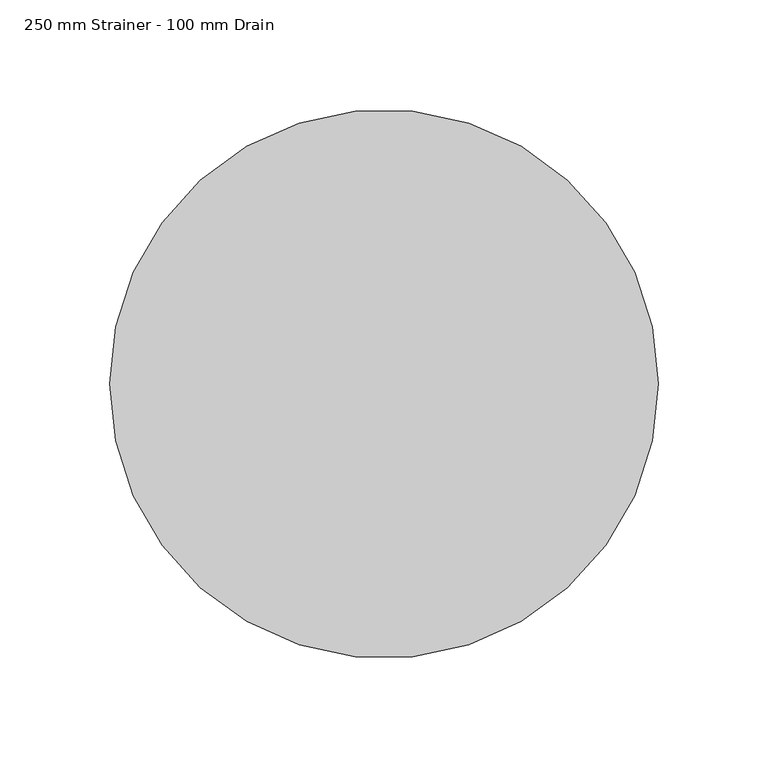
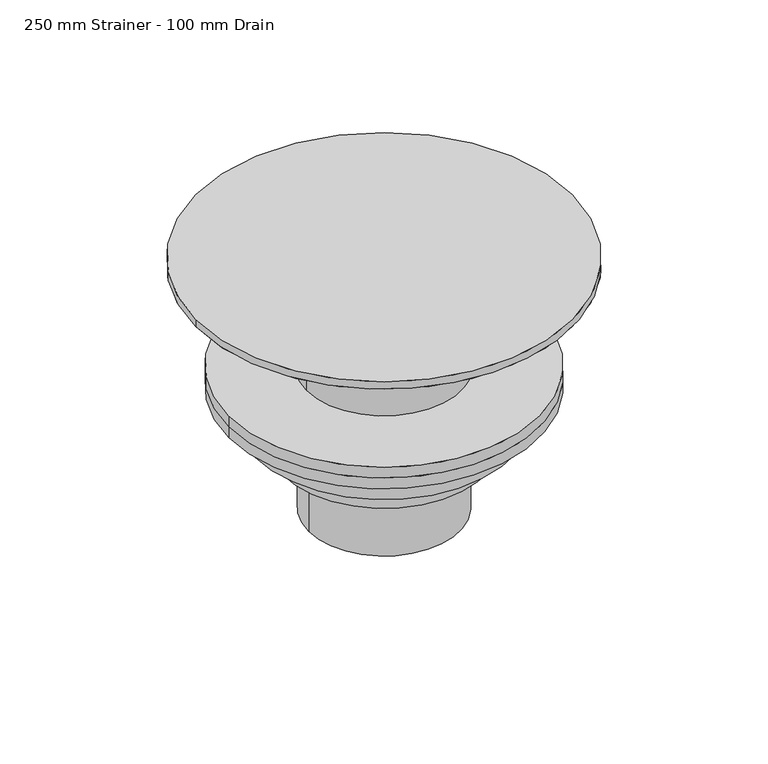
"""IFC4 building model written with IfcOpenShell, lengths in millimetres: flow terminal geometry, Sluk : 250 mm Strainer - 100 mm Drain."""

import ifcopenshell
import ifcopenshell.guid

model = None  # the IFC model being written
_history = None  # IfcOwnerHistory: only IFC2X3 demands one
_inside = {}  # id of a spatial element -> (the spatial element, [elements in it])
_under = {}  # id of a project, library or spatial element -> (it, [spatial elements below it])
_declared = {}  # id of a project -> (the project, [libraries it declares])
_typed = {}  # id of a type object -> (the type object, [elements of that type])
_made_of = {}  # id of a material, layer set ... -> (it, [elements and type objects made of it])


def new_model(schema):
    """Start an empty IFC model of exactly this schema.

    Asked for "IFC4X3", IfcOpenShell would pick the latest addendum, in which some entities
    have other attributes; the version numbers below select the first issue.
    IFC2X3 requires an IfcOwnerHistory on every rooted entity: one is made here for all.
    """
    global model, _history
    if schema == "IFC4X3":
        model = ifcopenshell.file(schema_version=(4, 3, 0, 0))
    else:
        model = ifcopenshell.file(schema=schema)
    _inside.clear()
    _under.clear()
    _declared.clear()
    _typed.clear()
    _made_of.clear()
    _history = None
    if model.schema == "IFC2X3":
        org = make("IfcOrganization", Name="unknown")
        user = make(
            "IfcPersonAndOrganization",
            ThePerson=make("IfcPerson", FamilyName="unknown"),
            TheOrganization=org,
        )
        app = make(
            "IfcApplication",
            ApplicationDeveloper=org,
            Version="unknown",
            ApplicationFullName="unknown",
            ApplicationIdentifier="unknown",
        )
        _history = make(
            "IfcOwnerHistory",
            OwningUser=user,
            OwningApplication=app,
            ChangeAction="ADDED",
            CreationDate=0,
        )
    return model


def make(cls, **values):
    """One entity of the class cls with the attributes given. An attribute that is None is left unset."""
    return model.create_entity(
        cls, **{name: value for name, value in values.items() if value is not None}
    )


def rooted(cls, **values):
    """An entity with a GlobalId (a new one), such as an element, a storey or a relation."""
    return make(cls, GlobalId=ifcopenshell.guid.new(), OwnerHistory=_history, **values)


def si_unit(unit_type, name, prefix=None):
    """IfcSIUnit, for example si_unit("LENGTHUNIT", "METRE", prefix="MILLI")."""
    return make("IfcSIUnit", UnitType=unit_type, Prefix=prefix, Name=name)


def assignment(units):
    """IfcUnitAssignment: the units of a project."""
    return None if units is None else make("IfcUnitAssignment", Units=units)


def point(xyz):
    """IfcCartesianPoint."""
    return None if xyz is None else make("IfcCartesianPoint", Coordinates=xyz)


def direction(xyz):
    """IfcDirection."""
    return None if xyz is None else make("IfcDirection", DirectionRatios=xyz)


def frame(location, z_axis=None, x_axis=None):
    """IfcAxis2Placement3D, a coordinate frame: its origin and axes. An axis left out is left unset."""
    return make(
        "IfcAxis2Placement3D",
        Location=point(location),
        Axis=direction(z_axis),
        RefDirection=direction(x_axis),
    )


def frame_2d(location, x_axis=None):
    """IfcAxis2Placement2D, a coordinate frame in the plane: its origin and x axis."""
    return make(
        "IfcAxis2Placement2D", Location=point(location), RefDirection=direction(x_axis)
    )


def origin():
    """The frame at (0, 0, 0) with its axes left unset."""
    return frame((0.0, 0.0, 0.0))


def origin_with_axes():
    """The frame at (0, 0, 0) with the z axis (0, 0, 1) and the x axis (1, 0, 0) written out."""
    return frame((0.0, 0.0, 0.0), z_axis=(0.0, 0.0, 1.0), x_axis=(1.0, 0.0, 0.0))


def origin_2d():
    """The frame at (0, 0) in the plane with its x axis left unset."""
    return frame_2d((0.0, 0.0))


def place(relative_to, where):
    """IfcLocalPlacement: puts the frame where relative to a parent placement (None: the world)."""
    return make(
        "IfcLocalPlacement", PlacementRelTo=relative_to, RelativePlacement=where
    )


def context(
    kind, dimensions, precision=None, world=None, true_north=None, identifier=None
):
    """IfcGeometricRepresentationContext, for example the 3D "Model" context."""
    return make(
        "IfcGeometricRepresentationContext",
        ContextIdentifier=identifier,
        ContextType=kind,
        CoordinateSpaceDimension=dimensions,
        Precision=precision,
        WorldCoordinateSystem=world,
        TrueNorth=true_north,
    )


def project(units=None, contexts=None):
    """IfcProject with its units and contexts."""
    return rooted(
        "IfcProject",
        Name="project",
        RepresentationContexts=contexts,
        UnitsInContext=assignment(units),
    )


def spatial(cls, under=None, at=None, **own):
    """A site, building, storey or space (cls), placed at a placement, below another one or the project."""
    s = rooted(cls, ObjectPlacement=at, **own)
    if under is not None:
        _under.setdefault(under.id(), (under, []))[1].append(s)
    return s


def polyline(points):
    """IfcPolyline through the points."""
    return make("IfcPolyline", Points=[point(p) for p in points])


def circle_curve(where, radius):
    """IfcCircle in the frame where."""
    return make("IfcCircle", Position=where, Radius=radius)


def trimmed(basis, trim1, trim2, sense, master):
    """IfcTrimmedCurve: the piece of a basis curve between two trims."""
    return make(
        "IfcTrimmedCurve",
        BasisCurve=basis,
        Trim1=trim1,
        Trim2=trim2,
        SenseAgreement=sense,
        MasterRepresentation=master,
    )


def segment(curve, same_sense, transition):
    """IfcCompositeCurveSegment."""
    return make(
        "IfcCompositeCurveSegment",
        Transition=transition,
        SameSense=same_sense,
        ParentCurve=curve,
    )


def composite_curve(segments, self_intersect=None):
    """IfcCompositeCurve: segments joined end to end."""
    return make("IfcCompositeCurve", Segments=segments, SelfIntersect=self_intersect)


def outline(outer, holes=None, kind="AREA"):
    """IfcArbitraryClosedProfileDef: a profile drawn as a closed curve; with holes, ...WithVoids."""
    if holes is None:
        return make("IfcArbitraryClosedProfileDef", ProfileType=kind, OuterCurve=outer)
    return make(
        "IfcArbitraryProfileDefWithVoids",
        ProfileType=kind,
        OuterCurve=outer,
        InnerCurves=holes,
    )


def extrude(swept, where, along, depth):
    """IfcExtrudedAreaSolid: the profile swept, set in the frame where, extruded along a direction by depth."""
    return make(
        "IfcExtrudedAreaSolid",
        SweptArea=swept,
        Position=where,
        ExtrudedDirection=direction(along),
        Depth=depth,
    )


def shape(context_of_items, identifier, shape_type, items):
    """IfcShapeRepresentation: the items that make up one representation, for example the "Body"."""
    return make(
        "IfcShapeRepresentation",
        ContextOfItems=context_of_items,
        RepresentationIdentifier=identifier,
        RepresentationType=shape_type,
        Items=items,
    )


def source(mapping_origin, context_of_items, identifier, shape_type, items):
    """IfcRepresentationMap: a shape defined once, which mapped items show again and again."""
    return make(
        "IfcRepresentationMap",
        MappingOrigin=mapping_origin,
        MappedRepresentation=shape(context_of_items, identifier, shape_type, items),
    )


def transform(
    local_origin,
    x_axis=None,
    y_axis=None,
    z_axis=None,
    scale=None,
    scale2=None,
    scale3=None,
    uniform=True,
):
    """IfcCartesianTransformationOperator3D, or its non-uniform kind. x_axis, y_axis, z_axis: its Axis1, 2, 3."""
    if uniform:
        return make(
            "IfcCartesianTransformationOperator3D",
            Axis1=direction(x_axis),
            Axis2=direction(y_axis),
            LocalOrigin=point(local_origin),
            Scale=scale,
            Axis3=direction(z_axis),
        )
    return make(
        "IfcCartesianTransformationOperator3DnonUniform",
        Axis1=direction(x_axis),
        Axis2=direction(y_axis),
        LocalOrigin=point(local_origin),
        Scale=scale,
        Axis3=direction(z_axis),
        Scale2=scale2,
        Scale3=scale3,
    )


def mapped(mapping_source, mapping_target):
    """IfcMappedItem: shows the shape of a source again, moved by a transform."""
    return make(
        "IfcMappedItem", MappingSource=mapping_source, MappingTarget=mapping_target
    )


def made_of(thing, what):
    """Note that an element or type object is made of a material, layer set ...; save() writes the relation."""
    if what is not None:
        _made_of.setdefault(what.id(), (what, []))[1].append(thing)
    return thing


def element(
    cls,
    number,
    at=None,
    inside=None,
    cuts=None,
    type_object=None,
    material=None,
    context=None,
    identifier="Body",
    shape_type=None,
    held_by="IfcProductDefinitionShape",
    body=None,
    shapes=None,
    **own,
):
    """One element of the class cls, such as IfcWall. Its Tag is "e" and its number.

    at: its placement. inside: the storey or other place that contains it. cuts: it is an
    opening in that element (IfcRelVoidsElement). A single representation is given by context,
    identifier, shape_type and body (its items); several are given by shapes. held_by: the class
    of the entity that holds the representations. save() writes the other relations.
    """
    e = rooted(cls, Tag="e%d" % number, ObjectPlacement=at, **own)
    if body is not None:
        shapes = [shape(context, identifier, shape_type, body)]
    if shapes is not None:
        e.Representation = make(held_by, Representations=shapes)
    if inside is not None:
        _inside.setdefault(inside.id(), (inside, []))[1].append(e)
    if cuts is not None:
        rooted(
            "IfcRelVoidsElement", RelatingBuildingElement=cuts, RelatedOpeningElement=e
        )
    if type_object is not None:
        _typed.setdefault(type_object.id(), (type_object, []))[1].append(e)
    return made_of(e, material)


def aggregate(whole, parts):
    """IfcRelAggregates: a whole, such as a stair, and the parts it consists of."""
    return rooted("IfcRelAggregates", RelatingObject=whole, RelatedObjects=parts)


def save(model, path):
    """Write the relations noted so far, then the file.

    IfcRelAggregates (storeys below a building ...), IfcRelContainedInSpatialStructure (elements
    in a storey), IfcRelDefinesByType, IfcRelAssociatesMaterial and IfcRelDeclares: one each for
    every whole, place, type object, material and project.
    """
    for whole, parts in _under.values():
        aggregate(whole, parts)
    for where, things in _inside.values():
        rooted(
            "IfcRelContainedInSpatialStructure",
            RelatedElements=things,
            RelatingStructure=where,
        )
    for kind, things in _typed.values():
        rooted("IfcRelDefinesByType", RelatedObjects=things, RelatingType=kind)
    for what, things in _made_of.values():
        rooted("IfcRelAssociatesMaterial", RelatedObjects=things, RelatingMaterial=what)
    for by, libraries in _declared.values():
        rooted("IfcRelDeclares", RelatingContext=by, RelatedDefinitions=libraries)
    model.write(path)


def plane_surface(at):
    """IfcPlane: the flat surface through the origin of the frame at, square to its z axis."""
    return make("IfcPlane", Position=at)


def revolved_surface(curve, axis_point, axis_direction):
    """IfcSurfaceOfRevolution: the curve turned about the line through axis_point along axis_direction."""
    return make(
        "IfcSurfaceOfRevolution",
        SweptCurve=make("IfcArbitraryOpenProfileDef", ProfileType="CURVE", Curve=curve),
        AxisPosition=make("IfcAxis1Placement", Location=point(axis_point), Axis=direction(axis_direction)),
    )


def advanced_brep(points, edges, surfaces, faces):
    """IfcAdvancedBrep: a solid bounded by faces that lie on surfaces and meet in shared edges.

    An edge is (start, end): straight between two places in points (the first is 0);
    or (start, end, curve); or (start, end, curve, False) where it runs against its curve.
    A face is (place in surfaces, loops), or (place, loops, False) where it looks against
    its surface's normal. A loop lists edges by number (the first is 1), with a minus sign
    where the edge is run from its end to its start. The first loop is the outer one.
    """
    corners = [point(p) for p in points]
    vertices = [make("IfcVertexPoint", VertexGeometry=c) for c in corners]
    made = []
    for start, end, *more in edges:
        made.append(
            make(
                "IfcEdgeCurve",
                EdgeStart=vertices[start],
                EdgeEnd=vertices[end],
                EdgeGeometry=more[0] if more else make("IfcPolyline", Points=[corners[start], corners[end]]),
                SameSense=more[1] if len(more) > 1 else True,
            )
        )
    hull = []
    for where, loops, *sense in faces:
        bounds = []
        for j, loop in enumerate(loops):
            ring = [make("IfcOrientedEdge", EdgeElement=made[abs(k) - 1], Orientation=k > 0) for k in loop]
            bounds.append(
                make(
                    "IfcFaceOuterBound" if j == 0 else "IfcFaceBound",
                    Bound=make("IfcEdgeLoop", EdgeList=ring),
                    Orientation=True,
                )
            )
        hull.append(make("IfcAdvancedFace", Bounds=bounds, FaceSurface=surfaces[where], SameSense=sense[0] if sense else True))
    return make("IfcAdvancedBrep", Outer=make("IfcClosedShell", CfsFaces=hull))


def flow_terminal_250_mm_strainer_100_mm_drain_c4bec031(model_context):
    return source(origin(), model_context, "Body", "SolidModel", [
        extrude(outline(composite_curve([segment(trimmed(circle_curve(origin_2d(), 125.0), [point((125.0, 0.0))], [point((-125.0, 0.0))], False, "CARTESIAN"), True, "CONTINUOUS"), segment(trimmed(circle_curve(origin_2d(), 125.0), [point((-125.0, 0.0))], [point((125.0, 0.0))], False, "CARTESIAN"), True, "CONTINUOUS")], self_intersect=False)), origin_with_axes(), (0.0, 0.0, 1.0), 5.08),
        advanced_brep(
        [(125.0, 0.0, 0.0), (-125.0, 0.0, 0.0), (0.0, 0.0, 0.0), (51.5, 0.0, -10.16), (-51.5, 0.0, -10.16), (0.0, 0.0, -10.16)],
        [
            (0, 1, circle_curve(frame((0.0, 0.0, 0.0), z_axis=(0.0, 0.0, 1.0), x_axis=(-1.0, 0.0, 0.0)), 125.0)),
            (1, 2),
            (2, 0),
            (1, 0, circle_curve(frame((0.0, 0.0, 0.0), z_axis=(0.0, 0.0, 1.0), x_axis=(-1.0, 0.0, 0.0)), 125.0)),
            (3, 4, circle_curve(frame((0.0, 0.0, -10.16), z_axis=(0.0, 0.0, 1.0), x_axis=(-1.0, 0.0, 0.0)), 51.5)),
            (4, 1),
            (0, 3),
            (4, 3, circle_curve(frame((0.0, 0.0, -10.16), z_axis=(0.0, 0.0, 1.0), x_axis=(-1.0, 0.0, 0.0)), 51.5)),
            (5, 4),
            (3, 5),
        ],
        [
            plane_surface(frame((0.0, 0.0, 0.0), z_axis=(0.0, 0.0, 1.0), x_axis=(-1.0, 0.0, 0.0))),
            revolved_surface(polyline([(-125.0, 0.0, 0.0), (-51.5, 0.0, -10.16)]), (0.0, 0.0, 49.53), (0.0, 0.0, -1.0)),
            plane_surface(frame((0.0, 0.0, -10.16), z_axis=(0.0, 0.0, -1.0), x_axis=(-1.0, 0.0, 0.0))),
        ],
        [
            (0, [[1, 2, 3]]),
            (0, [[4, -3, -2]]),
            (1, [[5, 6, -1, 7]]),
            (1, [[8, -7, -4, -6]]),
            (2, [[9, -5, 10]]),
            (2, [[-10, -8, -9]]),
        ],
    ),
        extrude(outline(composite_curve([segment(trimmed(circle_curve(origin_2d(), 51.5), [point((51.5, 0.0))], [point((-51.5, 0.0))], False, "CARTESIAN"), True, "CONTINUOUS"), segment(trimmed(circle_curve(origin_2d(), 51.5), [point((-51.5, 0.0))], [point((51.5, 0.0))], False, "CARTESIAN"), True, "CONTINUOUS")], self_intersect=False)), frame((0.0, 0.0, -70.3), z_axis=(0.0, 0.0, 1.0), x_axis=(1.0, 0.0, 0.0)), (0.0, 0.0, 1.0), 60.14),
        extrude(outline(composite_curve([segment(trimmed(circle_curve(origin_2d(), 103.0), [point((103.0, 0.0))], [point((-103.0, 0.0))], False, "CARTESIAN"), True, "CONTINUOUS"), segment(trimmed(circle_curve(origin_2d(), 103.0), [point((-103.0, 0.0))], [point((103.0, 0.0))], False, "CARTESIAN"), True, "CONTINUOUS")], self_intersect=False)), frame((0.0, 0.0, -77.92), z_axis=(0.0, 0.0, 1.0), x_axis=(1.0, 0.0, 0.0)), (0.0, 0.0, 1.0), 7.62),
        extrude(outline(composite_curve([segment(trimmed(circle_curve(origin_2d(), 103.0), [point((103.0, 0.0))], [point((-103.0, 0.0))], False, "CARTESIAN"), True, "CONTINUOUS"), segment(trimmed(circle_curve(origin_2d(), 103.0), [point((-103.0, 0.0))], [point((103.0, 0.0))], False, "CARTESIAN"), True, "CONTINUOUS")], self_intersect=False)), frame((0.0, 0.0, -85.54), z_axis=(0.0, 0.0, 1.0), x_axis=(1.0, 0.0, 0.0)), (0.0, 0.0, 1.0), 7.62),
        extrude(outline(composite_curve([segment(trimmed(circle_curve(origin_2d(), 85.3333333), [point((85.3333333, 0.0))], [point((-85.3333333, 0.0))], False, "CARTESIAN"), True, "CONTINUOUS"), segment(trimmed(circle_curve(origin_2d(), 85.3333333), [point((-85.3333333, 0.0))], [point((85.3333333, 0.0))], False, "CARTESIAN"), True, "CONTINUOUS")], self_intersect=False)), frame((0.0, 0.0, -105.52), z_axis=(0.0, 0.0, 1.0), x_axis=(1.0, 0.0, 0.0)), (0.0, 0.0, 1.0), 19.98),
        extrude(outline(composite_curve([segment(trimmed(circle_curve(origin_2d(), 67.6666667), [point((67.6666667, 0.0))], [point((-67.6666667, 0.0))], False, "CARTESIAN"), True, "CONTINUOUS"), segment(trimmed(circle_curve(origin_2d(), 67.6666667), [point((-67.6666667, 0.0))], [point((67.6666667, 0.0))], False, "CARTESIAN"), True, "CONTINUOUS")], self_intersect=False)), frame((0.0, 0.0, -123.92), z_axis=(0.0, 0.0, 1.0), x_axis=(1.0, 0.0, 0.0)), (0.0, 0.0, 1.0), 18.4),
        extrude(outline(composite_curve([segment(trimmed(circle_curve(origin_2d(), 50.0), [point((50.0, 0.0))], [point((-50.0, 0.0))], False, "CARTESIAN"), True, "CONTINUOUS"), segment(trimmed(circle_curve(origin_2d(), 50.0), [point((-50.0, 0.0))], [point((50.0, 0.0))], False, "CARTESIAN"), True, "CONTINUOUS")], self_intersect=False)), frame((0.0, 0.0, -169.92), z_axis=(0.0, 0.0, 1.0), x_axis=(1.0, 0.0, 0.0)), (0.0, 0.0, 1.0), 46.0),
    ])


if __name__ == "__main__":
    model = new_model("IFC4")
    model_context = context("Model", 3, world=origin())
    ifc_project = project(units=[si_unit("LENGTHUNIT", "METRE", prefix="MILLI")], contexts=[model_context])
    site = spatial("IfcSite", under=ifc_project)
    building = spatial("IfcBuilding", under=site)
    placement = place(None, origin())
    flow_terminal_250_mm_strainer_100_mm_drain_shape = flow_terminal_250_mm_strainer_100_mm_drain_c4bec031(model_context)
    element("IfcFlowTerminal", 1, ObjectType="Sluk : 250 mm Strainer - 100 mm Drain", at=placement, inside=building, context=model_context, shape_type="MappedRepresentation", body=[
        mapped(flow_terminal_250_mm_strainer_100_mm_drain_shape, transform((0.0, 0.0, 0.0), x_axis=(1.0, 0.0, 0.0), y_axis=(0.0, 1.0, 0.0), z_axis=(0.0, 0.0, 1.0))),
    ])
    save(model, "model.ifc")
